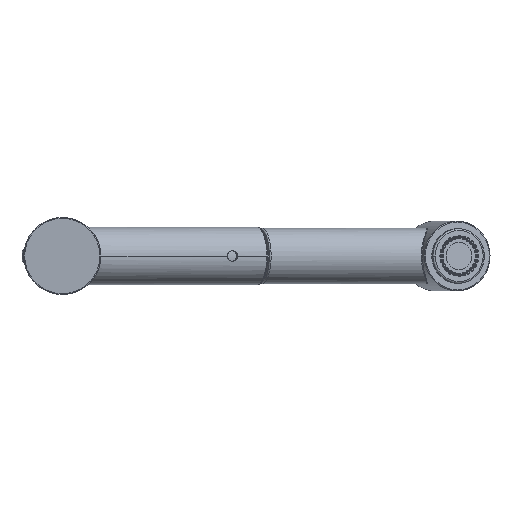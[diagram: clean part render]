
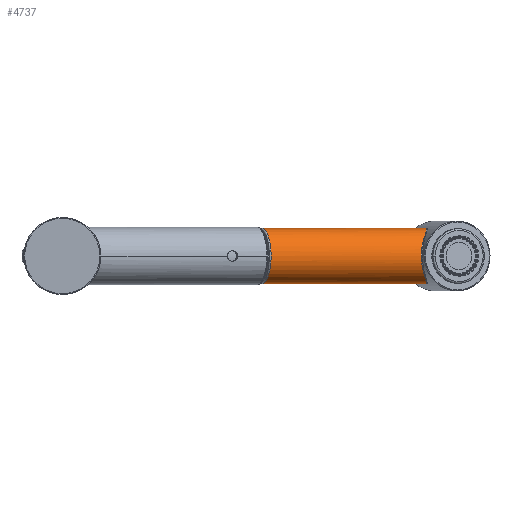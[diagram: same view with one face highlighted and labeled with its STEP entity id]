
A CAD part, front view. The second image highlights one B-rep face of the part: STEP entity #4737.
In plain terms, the highlighted cylindrical face has radius 15.5 mm (diameter 31 mm), a partial arc.
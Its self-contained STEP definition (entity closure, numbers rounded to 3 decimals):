
#663=DIRECTION('',(0.94,0.342,0.));
#664=VECTOR('',#663,97.2);
#665=CARTESIAN_POINT('',(111.213,170.953,-15.5));
#666=LINE('',#665,#664);
#667=CARTESIAN_POINT('',(202.551,204.197,-15.5));
#754=CARTESIAN_POINT('',(202.551,204.197,15.5));
#756=DIRECTION('',(0.94,0.342,0.));
#757=VECTOR('',#756,97.2);
#758=CARTESIAN_POINT('',(111.213,170.953,15.5));
#759=LINE('',#758,#757);
#770=CARTESIAN_POINT('',(111.213,170.953,0.));
#771=DIRECTION('',(0.94,0.342,0.));
#772=DIRECTION('',(0.,0.,1.));
#773=AXIS2_PLACEMENT_3D('',#770,#771,#772);
#775=CARTESIAN_POINT('',(202.551,204.197,15.5));
#776=CARTESIAN_POINT('',(202.599,204.065,15.5));
#777=CARTESIAN_POINT('',(202.691,203.797,15.496));
#778=CARTESIAN_POINT('',(202.815,203.385,15.479));
#779=CARTESIAN_POINT('',(202.926,202.96,15.448));
#780=CARTESIAN_POINT('',(203.022,202.522,15.405));
#781=CARTESIAN_POINT('',(203.104,202.068,15.347));
#782=CARTESIAN_POINT('',(203.171,201.6,15.274));
#783=CARTESIAN_POINT('',(203.222,201.114,15.184));
#784=CARTESIAN_POINT('',(203.257,200.611,15.076));
#785=CARTESIAN_POINT('',(203.275,200.088,14.948));
#786=CARTESIAN_POINT('',(203.276,199.543,14.798));
#787=CARTESIAN_POINT('',(203.258,198.974,14.623));
#788=CARTESIAN_POINT('',(203.221,198.384,14.421));
#789=CARTESIAN_POINT('',(203.165,197.772,14.19));
#790=CARTESIAN_POINT('',(203.09,197.142,13.927));
#791=CARTESIAN_POINT('',(202.996,196.499,13.632));
#792=CARTESIAN_POINT('',(202.886,195.848,13.306));
#793=CARTESIAN_POINT('',(202.761,195.197,12.948));
#794=CARTESIAN_POINT('',(202.624,194.552,12.562));
#795=CARTESIAN_POINT('',(202.479,193.92,12.149));
#796=CARTESIAN_POINT('',(202.328,193.306,11.714));
#797=CARTESIAN_POINT('',(202.175,192.716,11.259));
#798=CARTESIAN_POINT('',(202.021,192.152,10.787));
#799=CARTESIAN_POINT('',(201.869,191.616,10.3));
#800=CARTESIAN_POINT('',(201.721,191.11,9.8));
#801=CARTESIAN_POINT('',(201.577,190.634,9.291));
#802=CARTESIAN_POINT('',(201.44,190.19,8.775));
#803=CARTESIAN_POINT('',(201.309,189.778,8.253));
#804=CARTESIAN_POINT('',(201.187,189.396,7.727));
#805=CARTESIAN_POINT('',(201.072,189.045,7.197));
#806=CARTESIAN_POINT('',(200.965,188.723,6.664));
#807=CARTESIAN_POINT('',(200.866,188.43,6.131));
#808=CARTESIAN_POINT('',(200.777,188.165,5.596));
#809=CARTESIAN_POINT('',(200.695,187.927,5.061));
#810=CARTESIAN_POINT('',(200.622,187.715,4.525));
#811=CARTESIAN_POINT('',(200.557,187.529,3.99));
#812=CARTESIAN_POINT('',(200.501,187.368,3.456));
#813=CARTESIAN_POINT('',(200.453,187.231,2.921));
#814=CARTESIAN_POINT('',(200.413,187.118,2.387));
#815=CARTESIAN_POINT('',(200.381,187.028,1.854));
#816=CARTESIAN_POINT('',(200.358,186.961,1.321));
#817=CARTESIAN_POINT('',(200.342,186.916,0.788));
#818=CARTESIAN_POINT('',(200.334,186.895,0.255));
#819=CARTESIAN_POINT('',(200.334,186.895,-0.277));
#820=CARTESIAN_POINT('',(200.342,186.918,-0.81));
#821=CARTESIAN_POINT('',(200.358,186.963,-1.343));
#822=CARTESIAN_POINT('',(200.383,187.031,-1.876));
#823=CARTESIAN_POINT('',(200.415,187.122,-2.409));
#824=CARTESIAN_POINT('',(200.455,187.236,-2.943));
#825=CARTESIAN_POINT('',(200.503,187.374,-3.478));
#826=CARTESIAN_POINT('',(200.56,187.536,-4.013));
#827=CARTESIAN_POINT('',(200.625,187.724,-4.548));
#828=CARTESIAN_POINT('',(200.698,187.936,-5.083));
#829=CARTESIAN_POINT('',(200.78,188.176,-5.618));
#830=CARTESIAN_POINT('',(200.87,188.442,-6.153));
#831=CARTESIAN_POINT('',(200.969,188.736,-6.686));
#832=CARTESIAN_POINT('',(201.076,189.059,-7.218));
#833=CARTESIAN_POINT('',(201.191,189.412,-7.748));
#834=CARTESIAN_POINT('',(201.315,189.795,-8.275));
#835=CARTESIAN_POINT('',(201.445,190.208,-8.797));
#836=CARTESIAN_POINT('',(201.583,190.653,-9.313));
#837=CARTESIAN_POINT('',(201.727,191.13,-9.821));
#838=CARTESIAN_POINT('',(201.875,191.638,-10.32));
#839=CARTESIAN_POINT('',(202.028,192.176,-10.807));
#840=CARTESIAN_POINT('',(202.182,192.741,-11.279));
#841=CARTESIAN_POINT('',(202.335,193.332,-11.733));
#842=CARTESIAN_POINT('',(202.485,193.945,-12.167));
#843=CARTESIAN_POINT('',(202.63,194.577,-12.577));
#844=CARTESIAN_POINT('',(202.766,195.221,-12.962));
#845=CARTESIAN_POINT('',(202.89,195.872,-13.318));
#846=CARTESIAN_POINT('',(203.,196.521,-13.643));
#847=CARTESIAN_POINT('',(203.092,197.162,-13.935));
#848=CARTESIAN_POINT('',(203.167,197.79,-14.196));
#849=CARTESIAN_POINT('',(203.223,198.4,-14.427));
#850=CARTESIAN_POINT('',(203.259,198.989,-14.628));
#851=CARTESIAN_POINT('',(203.276,199.555,-14.802));
#852=CARTESIAN_POINT('',(203.275,200.099,-14.951));
#853=CARTESIAN_POINT('',(203.257,200.622,-15.079));
#854=CARTESIAN_POINT('',(203.221,201.126,-15.186));
#855=CARTESIAN_POINT('',(203.169,201.611,-15.276));
#856=CARTESIAN_POINT('',(203.102,202.079,-15.348));
#857=CARTESIAN_POINT('',(203.02,202.531,-15.406));
#858=CARTESIAN_POINT('',(202.924,202.967,-15.449));
#859=CARTESIAN_POINT('',(202.813,203.39,-15.479));
#860=CARTESIAN_POINT('',(202.69,203.8,-15.496));
#861=CARTESIAN_POINT('',(202.598,204.066,-15.5));
#862=CARTESIAN_POINT('',(202.551,204.197,-15.5));
#3486=VERTEX_POINT('',#667);
#3487=VERTEX_POINT('',#754);
#3498=CARTESIAN_POINT('',(111.213,170.953,15.5));
#3499=CARTESIAN_POINT('',(111.213,170.953,-15.5));
#3500=VERTEX_POINT('',#3498);
#3501=VERTEX_POINT('',#3499);
#4725=CARTESIAN_POINT('',(220.029,210.559,0.));
#4726=DIRECTION('',(-0.94,-0.342,0.));
#4727=DIRECTION('',(0.,0.,1.));
#4728=AXIS2_PLACEMENT_3D('',#4725,#4726,#4727);
#4729=CYLINDRICAL_SURFACE('',#4728,15.5);
#4730=ORIENTED_EDGE('',*,*,#4704,.F.);
#4731=ORIENTED_EDGE('',*,*,#4655,.T.);
#4733=ORIENTED_EDGE('',*,*,#4732,.T.);
#4734=ORIENTED_EDGE('',*,*,#4652,.F.);
#4735=EDGE_LOOP('',(#4730,#4731,#4733,#4734));
#4736=FACE_OUTER_BOUND('',#4735,.F.);
#774=CIRCLE('',#773,15.5);
#863=B_SPLINE_CURVE_WITH_KNOTS('',3,(#775,#776,#777,#778,#779,#780,#781,#782,
#783,#784,#785,#786,#787,#788,#789,#790,#791,#792,#793,#794,#795,#796,#797,#798,
#799,#800,#801,#802,#803,#804,#805,#806,#807,#808,#809,#810,#811,#812,#813,#814,
#815,#816,#817,#818,#819,#820,#821,#822,#823,#824,#825,#826,#827,#828,#829,#830,
#831,#832,#833,#834,#835,#836,#837,#838,#839,#840,#841,#842,#843,#844,#845,#846,
#847,#848,#849,#850,#851,#852,#853,#854,#855,#856,#857,#858,#859,#860,#861,
#862),.UNSPECIFIED.,.F.,.F.,(4,1,1,1,1,1,1,1,1,1,1,1,1,1,1,1,1,1,1,1,1,1,1,1,1,
1,1,1,1,1,1,1,1,1,1,1,1,1,1,1,1,1,1,1,1,1,1,1,1,1,1,1,1,1,1,1,1,1,1,1,1,1,1,1,1,
1,1,1,1,1,1,1,1,1,1,1,1,1,1,1,1,1,1,1,1,4),(0.,0.012,
0.024,0.035,0.047,0.059,
0.071,0.082,0.094,0.106,
0.118,0.129,0.141,0.153,
0.165,0.176,0.188,0.2,0.212,
0.224,0.235,0.247,0.259,
0.271,0.282,0.294,0.306,
0.318,0.329,0.341,0.353,
0.365,0.376,0.388,0.4,0.412,
0.424,0.435,0.447,0.459,
0.471,0.482,0.494,0.506,
0.518,0.529,0.541,0.553,
0.565,0.576,0.588,0.6,0.612,
0.624,0.635,0.647,0.659,
0.671,0.682,0.694,0.706,
0.718,0.729,0.741,0.753,
0.765,0.776,0.788,0.8,0.812,
0.824,0.835,0.847,0.859,
0.871,0.882,0.894,0.906,
0.918,0.929,0.941,0.953,
0.965,0.976,0.988,1.),.UNSPECIFIED.);
#4652=EDGE_CURVE('',#3501,#3486,#666,.T.);
#4655=EDGE_CURVE('',#3500,#3487,#759,.T.);
#4704=EDGE_CURVE('',#3500,#3501,#774,.T.);
#4732=EDGE_CURVE('',#3487,#3486,#863,.T.);
#4737=ADVANCED_FACE('',(#4736),#4729,.T.);
